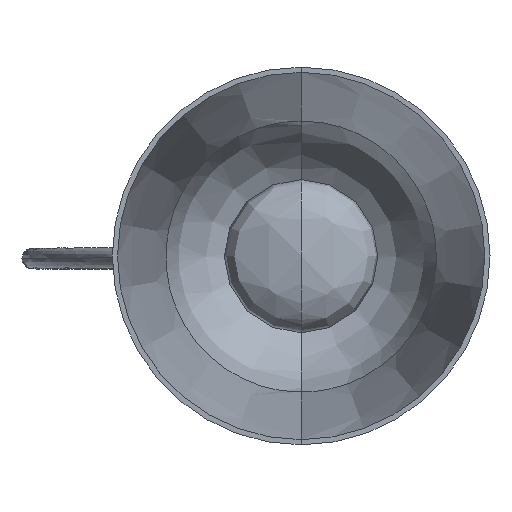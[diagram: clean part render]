
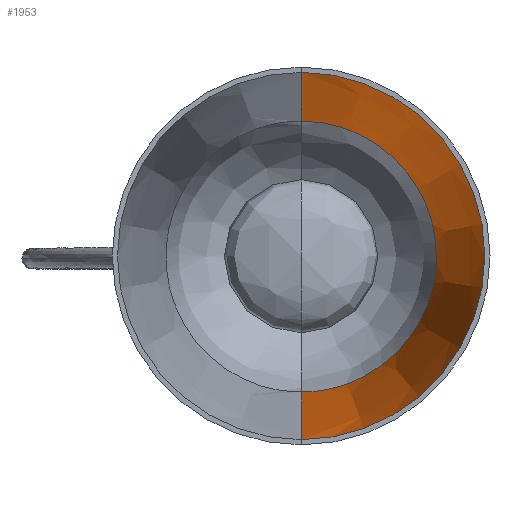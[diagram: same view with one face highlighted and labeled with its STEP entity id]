
A CAD part, top view. The second image highlights one B-rep face of the part: STEP entity #1953.
In plain terms, the highlighted conical face has half-angle 8.329 degrees and reference radius 40.831 mm.
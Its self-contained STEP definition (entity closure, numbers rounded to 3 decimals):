
#96=CONICAL_SURFACE('',#2158,40.831,0.145);
#171=CIRCLE('',#2142,53.507);
#371=FACE_OUTER_BOUND('',#509,.T.);
#509=EDGE_LOOP('',(#1723,#1724,#1725,#1726));
#639=LINE('',#4785,#761);
#640=LINE('',#4786,#762);
#761=VECTOR('',#2682,304.8);
#762=VECTOR('',#2683,304.8);
#812=B_SPLINE_CURVE_WITH_KNOTS('',3,(#4749,#4750,#4751,#4752,#4753,#4754,
#4755,#4756,#4757),.UNSPECIFIED.,.F.,.F.,(4,1,1,1,1,1,4),(0.,0.167,
0.333,0.5,0.667,0.833,1.),
 .UNSPECIFIED.);
#949=VERTEX_POINT('',#4656);
#950=VERTEX_POINT('',#4658);
#957=VERTEX_POINT('',#4747);
#958=VERTEX_POINT('',#4748);
#1198=EDGE_CURVE('',#950,#949,#171,.T.);
#1214=EDGE_CURVE('',#957,#958,#812,.T.);
#1218=EDGE_CURVE('',#957,#949,#639,.T.);
#1219=EDGE_CURVE('',#950,#958,#640,.T.);
#1723=ORIENTED_EDGE('',*,*,#1198,.T.);
#1724=ORIENTED_EDGE('',*,*,#1218,.F.);
#1725=ORIENTED_EDGE('',*,*,#1214,.T.);
#1726=ORIENTED_EDGE('',*,*,#1219,.F.);
#1953=ADVANCED_FACE('',(#371),#96,.F.);
#2142=AXIS2_PLACEMENT_3D('',#4659,#2643,#2644);
#2158=AXIS2_PLACEMENT_3D('',#4784,#2680,#2681);
#2643=DIRECTION('center_axis',(0.,0.,-1.));
#2644=DIRECTION('ref_axis',(-0.588,0.809,0.));
#2680=DIRECTION('center_axis',(0.,0.,
-1.));
#2681=DIRECTION('ref_axis',(1.,0.,0.));
#2682=DIRECTION('',(0.,-0.145,-0.989));
#2683=DIRECTION('',(0.,-0.145,0.989));
#4656=CARTESIAN_POINT('',(0.,-53.507,-127.961));
#4658=CARTESIAN_POINT('',(0.,53.507,-127.961));
#4659=CARTESIAN_POINT('Origin',(0.,0.,
-127.961));
#4747=CARTESIAN_POINT('',(0.,-39.422,-31.747));
#4748=CARTESIAN_POINT('',(0.,39.422,-31.747));
#4749=CARTESIAN_POINT('Ctrl Pts',(0.,-39.422,
-31.747));
#4750=CARTESIAN_POINT('Ctrl Pts',(6.966,-39.577,-31.747));
#4751=CARTESIAN_POINT('Ctrl Pts',(20.591,-35.665,-31.747));
#4752=CARTESIAN_POINT('Ctrl Pts',(35.748,-20.65,-31.747));
#4753=CARTESIAN_POINT('Ctrl Pts',(41.259,0.,
-31.747));
#4754=CARTESIAN_POINT('Ctrl Pts',(35.748,20.65,-31.747));
#4755=CARTESIAN_POINT('Ctrl Pts',(20.591,35.665,-31.747));
#4756=CARTESIAN_POINT('Ctrl Pts',(6.966,39.577,-31.747));
#4757=CARTESIAN_POINT('Ctrl Pts',(0.,39.422,
-31.747));
#4784=CARTESIAN_POINT('Origin',(0.,0.,
-41.368));
#4785=CARTESIAN_POINT('',(0.,-39.422,-31.747));
#4786=CARTESIAN_POINT('',(0.,53.507,-127.961));
